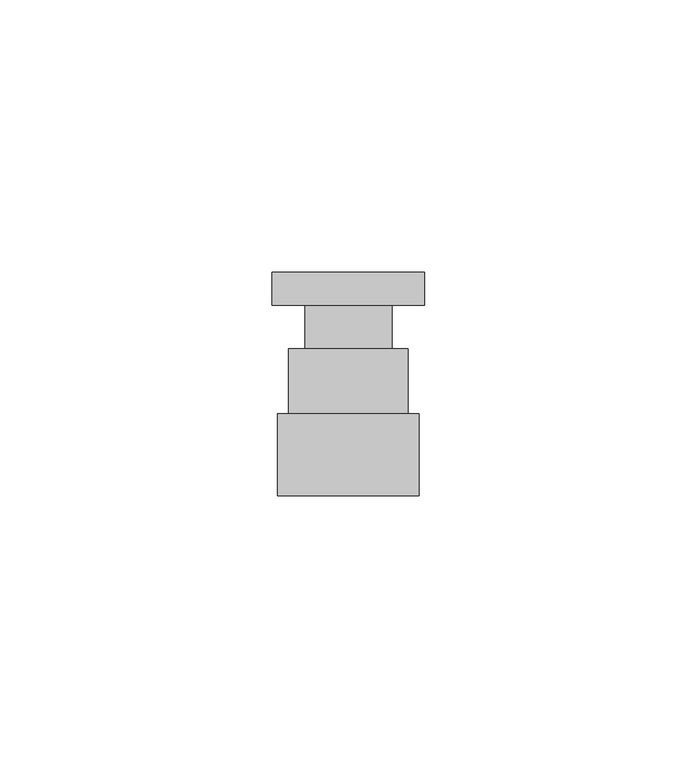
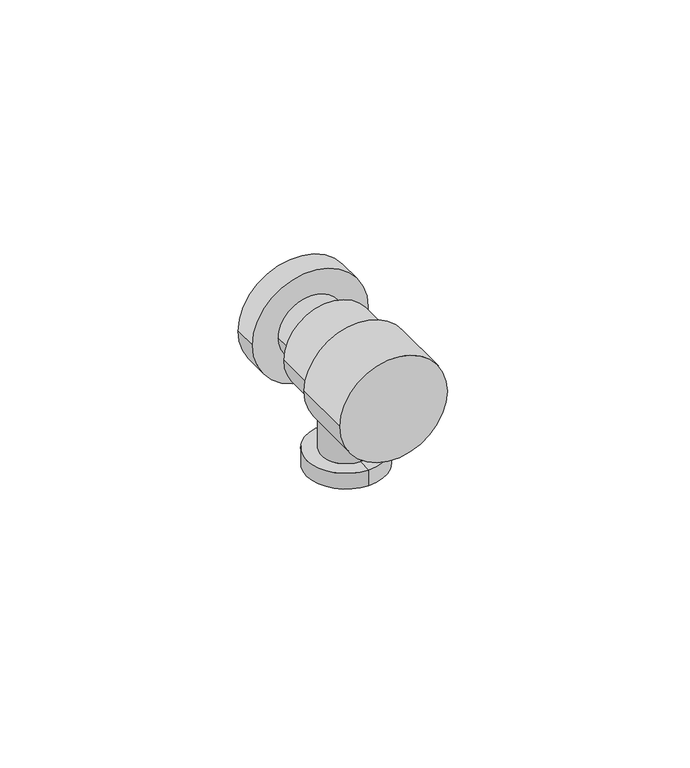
"""IFC4 building model written with IfcOpenShell, lengths in millimetres: pipe fitting geometry, KAN-therm Push podejście mosiężne do baterii : KAN-therm Push podejście mosiężne do baterii."""

from ifc_helpers import new_model, si_unit, point, frame, origin, origin_2d, place, context, project, spatial, circle_curve, trimmed, segment, composite_curve, outline, extrude, source, transform, mapped, element, save
from ifc_brep_helpers import plane_surface, cylinder_surface, advanced_brep


def pipe_fitting_ba566464(model_context):
    return source(origin(), model_context, "Body", "SolidModel", [
        advanced_brep(
        [(0.0, 0.0, 0.0), (0.0, 6.0, 0.0), (0.0, -6.0, 0.0), (0.0, -9.5, -26.0), (0.0, 9.5, -26.0), (0.0, 0.0, -26.0), (0.0, -9.5, -22.0), (0.0, 9.5, -22.0), (0.0, -6.0, -22.0), (0.0, 6.0, -22.0)],
        [
            (0, 1),
            (1, 2, circle_curve(frame((0.0, 0.0, 0.0), z_axis=(0.0, 0.0, 1.0), x_axis=(0.0, 1.0, 0.0)), 6.0)),
            (2, 0),
            (2, 1, circle_curve(frame((0.0, 0.0, 0.0), z_axis=(0.0, 0.0, 1.0), x_axis=(0.0, 1.0, 0.0)), 6.0)),
            (3, 4, circle_curve(frame((0.0, 0.0, -26.0), z_axis=(0.0, 0.0, -1.0), x_axis=(0.0, 1.0, 0.0)), 9.5)),
            (4, 5),
            (5, 3),
            (4, 3, circle_curve(frame((0.0, 0.0, -26.0), z_axis=(0.0, 0.0, -1.0), x_axis=(0.0, 1.0, 0.0)), 9.5)),
            (6, 7, circle_curve(frame((0.0, 0.0, -22.0), z_axis=(0.0, 0.0, -1.0), x_axis=(0.0, 1.0, 0.0)), 9.5)),
            (7, 4),
            (3, 6),
            (7, 6, circle_curve(frame((0.0, 0.0, -22.0), z_axis=(0.0, 0.0, -1.0), x_axis=(0.0, 1.0, 0.0)), 9.5)),
            (8, 9, circle_curve(frame((0.0, 0.0, -22.0), z_axis=(0.0, 0.0, -1.0), x_axis=(0.0, 1.0, 0.0)), 6.0)),
            (9, 7),
            (6, 8),
            (9, 8, circle_curve(frame((0.0, 0.0, -22.0), z_axis=(0.0, 0.0, -1.0), x_axis=(0.0, 1.0, 0.0)), 6.0)),
            (1, 9),
            (8, 2),
        ],
        [
            plane_surface(frame((0.0, 0.0, 0.0), z_axis=(0.0, 0.0, 1.0), x_axis=(0.0, 1.0, 0.0))),
            plane_surface(frame((0.0, 0.0, -26.0), z_axis=(0.0, 0.0, -1.0), x_axis=(0.0, 1.0, 0.0))),
            cylinder_surface(frame((0.0, 0.0, 2741.4742198), z_axis=(0.0, 0.0, 1.0), x_axis=(0.0, 1.0, 0.0)), 9.5),
            plane_surface(frame((0.0, 0.0, -22.0), z_axis=(0.0, 0.0, 1.0), x_axis=(0.0, 1.0, 0.0))),
            cylinder_surface(frame((0.0, 0.0, 2741.4742198), z_axis=(0.0, 0.0, 1.0), x_axis=(0.0, 1.0, 0.0)), 6.0),
        ],
        [
            (0, [[1, 2, 3]]),
            (0, [[-3, 4, -1]]),
            (1, [[5, 6, 7]]),
            (1, [[8, -7, -6]]),
            (2, [[9, 10, -5, 11]]),
            (2, [[12, -11, -8, -10]]),
            (3, [[13, 14, -9, 15]]),
            (3, [[16, -15, -12, -14]]),
            (4, [[-2, 17, -13, 18]]),
            (4, [[-4, -18, -16, -17]]),
        ],
    ),
        extrude(outline(composite_curve([segment(trimmed(circle_curve(origin_2d(), 13.0), [point((0.0, -13.0))], [point((0.0, 13.0))], False, "CARTESIAN"), True, "CONTINUOUS"), segment(trimmed(circle_curve(origin_2d(), 13.0), [point((0.0, 13.0))], [point((0.0, -13.0))], False, "CARTESIAN"), True, "CONTINUOUS")], self_intersect=False)), frame((0.0, -20.0, 0.0), z_axis=(0.0, 1.0, 0.0), x_axis=(0.0, 0.0, 1.0)), (0.0, 0.0, 1.0), 15.0),
        extrude(outline(composite_curve([segment(trimmed(circle_curve(origin_2d(), 11.0), [point((0.0, -11.0))], [point((0.0, 11.0))], False, "CARTESIAN"), True, "CONTINUOUS"), segment(trimmed(circle_curve(origin_2d(), 11.0), [point((0.0, 11.0))], [point((0.0, -11.0))], False, "CARTESIAN"), True, "CONTINUOUS")], self_intersect=False)), frame((0.0, -8.0, 0.0), z_axis=(0.0, 1.0, 0.0), x_axis=(0.0, 0.0, 1.0)), (0.0, 0.0, 1.0), 15.0),
        extrude(outline(composite_curve([segment(trimmed(circle_curve(origin_2d(), 14.0), [point((0.0, -14.0))], [point((0.0, 14.0))], False, "CARTESIAN"), True, "CONTINUOUS"), segment(trimmed(circle_curve(origin_2d(), 14.0), [point((0.0, 14.0))], [point((0.0, -14.0))], False, "CARTESIAN"), True, "CONTINUOUS")], self_intersect=False)), frame((0.0, 15.0, 0.0), z_axis=(0.0, 1.0, 0.0), x_axis=(0.0, 0.0, 1.0)), (0.0, 0.0, 1.0), 6.0),
        extrude(outline(composite_curve([segment(trimmed(circle_curve(origin_2d(), 8.0), [point((0.0, -8.0))], [point((0.0, 8.0))], False, "CARTESIAN"), True, "CONTINUOUS"), segment(trimmed(circle_curve(origin_2d(), 8.0), [point((0.0, 8.0))], [point((0.0, -8.0))], False, "CARTESIAN"), True, "CONTINUOUS")], self_intersect=False)), frame((0.0, 7.0, 0.0), z_axis=(0.0, 1.0, 0.0), x_axis=(0.0, 0.0, 1.0)), (0.0, 0.0, 1.0), 8.0),
    ])


if __name__ == "__main__":
    model = new_model("IFC4")
    model_context = context("Model", 3, world=origin())
    ifc_project = project(units=[si_unit("LENGTHUNIT", "METRE", prefix="MILLI")], contexts=[model_context])
    site = spatial("IfcSite", under=ifc_project)
    building = spatial("IfcBuilding", under=site)
    placement = place(None, origin())
    pipe_fitting_shape = pipe_fitting_ba566464(model_context)
    element("IfcPipeFitting", 1, ObjectType="KAN-therm Push podejście mosiężne do baterii : KAN-therm Push podejście mosiężne do baterii", at=placement, inside=building, context=model_context, shape_type="MappedRepresentation", body=[
        mapped(pipe_fitting_shape, transform((0.0, 0.0, 0.0), x_axis=(1.0, 0.0, 0.0), y_axis=(0.0, 1.0, 0.0), z_axis=(0.0, 0.0, 1.0))),
    ])
    save(model, "model.ifc")
